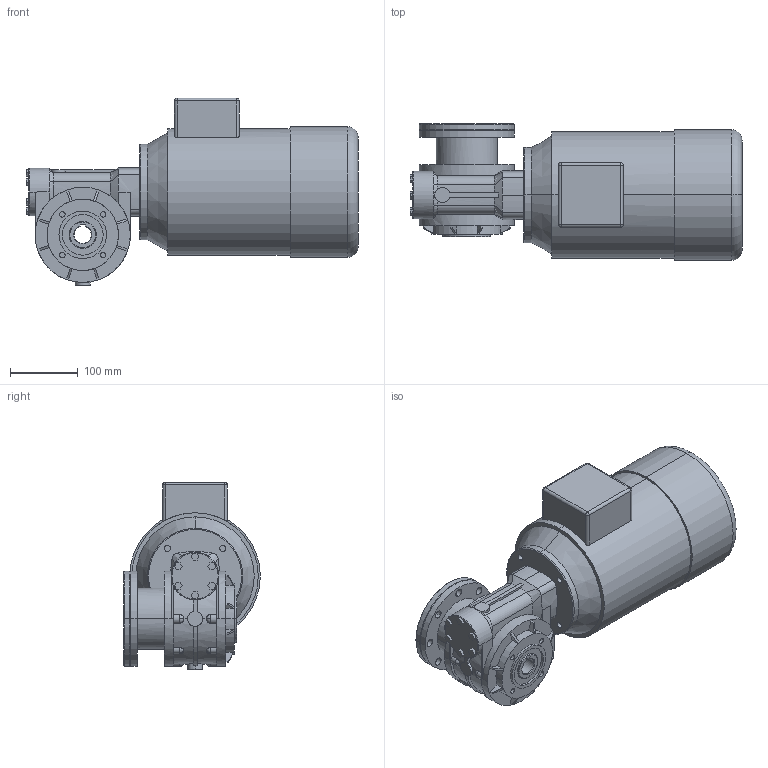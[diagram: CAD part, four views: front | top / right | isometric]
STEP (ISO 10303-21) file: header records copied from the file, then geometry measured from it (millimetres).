
FILE_DESCRIPTION((''),'2;1');
FILE_NAME('68000901_ASM','2012-07-17T',('mdance'),(''),'PRO/ENGINEER BY PARAMETRIC TECHNOLOGY CORPORATION, 2010280','PRO/ENGINEER BY PARAMETRIC TECHNOLOGY CORPORATION, 2010280','');
FILE_SCHEMA(('CONFIG_CONTROL_DESIGN'));
Length unit declared in the file: millimetre
Products named in the file (3): 60000458; 65001996; 68000901_ASM
Assembly tree (2 placements, depth 2):
  68000901_ASM
    60000458
    65001996
Bounding box: 488.5 x 201 x 276 mm (x, y, z)
Volume: 11020699.6 mm3; surface area: 454918.7 mm2
Topology: 2 solids, 3 shells, 389 faces, 985 edges, 611 vertices
Faces by surface type: plane 166, cylinder 147, cone 30, sphere 24, torus 12, bspline 10
Entity records: 12292 total; most frequent: CARTESIAN_POINT 2761, DIRECTION 2047, ORIENTED_EDGE 1932, EDGE_CURVE 966, AXIS2_PLACEMENT_3D 788, VERTEX_POINT 611, VECTOR 471, LINE 471
